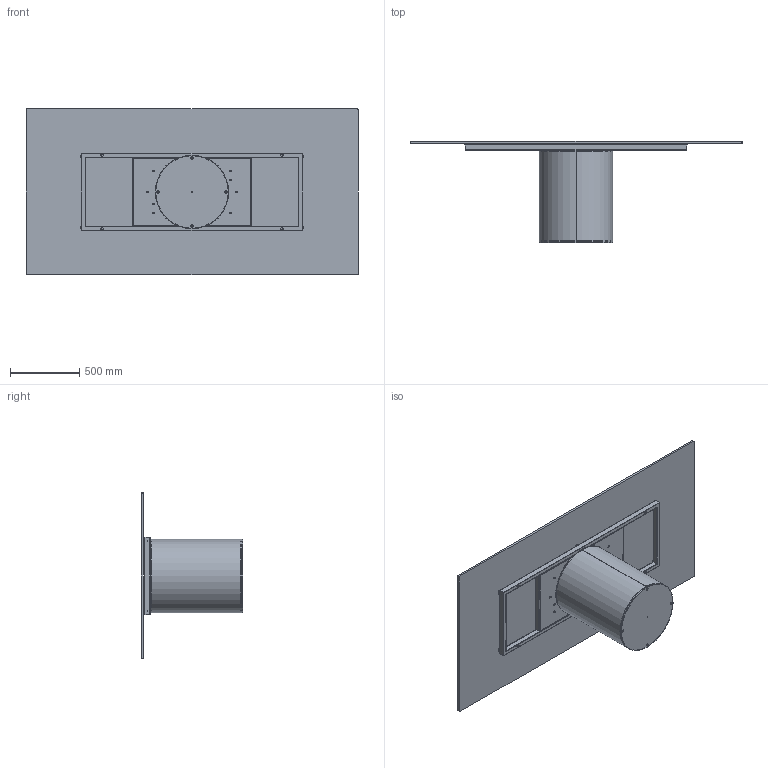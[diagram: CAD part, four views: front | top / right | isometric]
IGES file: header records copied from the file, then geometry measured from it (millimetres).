
Start section: SolidWorks IGES file using analytic representation for surfaces
Global section: file name: Y:\eforma\TECNICO\SOLIDWORKS\E-FORMA\1-TAVOLI\CILINDRO\02 parts\CI23G.IGS; native system: SolidWorks 2022; preprocessor: SolidWorks 2022; author: eforma.tech; date: 240808.092333; units: millimetre
Bounding box: 2400 x 735 x 1200 mm (x, y, z)
Volume: 51898392.1 mm3; surface area: 10987411.2 mm2
Topology: 32 solids, 32 shells, 756 faces, 1730 edges, 1010 vertices
Faces by surface type: revolution 436, plane 320
